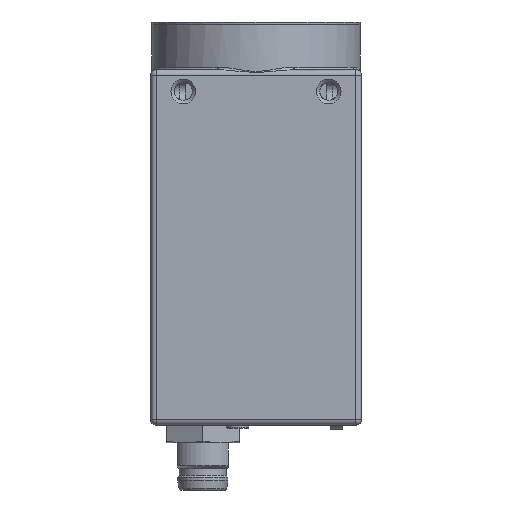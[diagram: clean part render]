
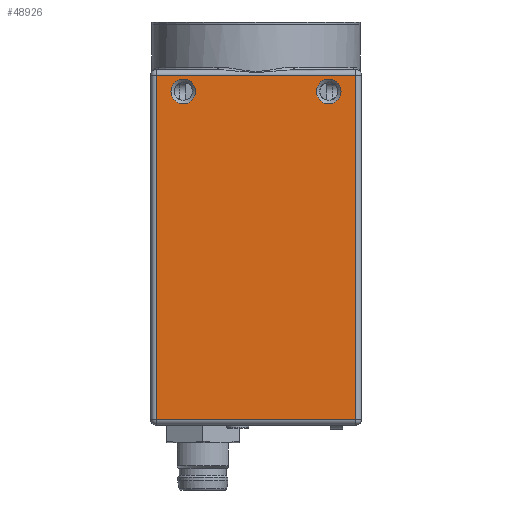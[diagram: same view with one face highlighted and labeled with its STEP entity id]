
A CAD part, left-side view. The second image highlights one B-rep face of the part: STEP entity #48926.
In plain terms, the highlighted planar face has unit normal (-1, 0, 0).
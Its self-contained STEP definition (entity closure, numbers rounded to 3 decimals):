
#2116=CIRCLE('',#52082,1.7);
#2117=CIRCLE('',#52084,1.7);
#4872=LINE('',#71915,#7727);
#4885=LINE('',#71961,#7740);
#4911=LINE('',#72092,#7766);
#4946=LINE('',#72206,#7801);
#7727=VECTOR('',#60776,1000.);
#7740=VECTOR('',#60831,1000.);
#7766=VECTOR('',#60935,1000.);
#7801=VECTOR('',#61034,1000.);
#15692=ORIENTED_EDGE('',*,*,#21370,.T.);
#15693=ORIENTED_EDGE('',*,*,#21369,.T.);
#15694=ORIENTED_EDGE('',*,*,#21485,.T.);
#15695=ORIENTED_EDGE('',*,*,#21389,.T.);
#15696=ORIENTED_EDGE('',*,*,#21368,.T.);
#15697=ORIENTED_EDGE('',*,*,#21435,.T.);
#21368=EDGE_CURVE('',#24939,#24965,#4872,.T.);
#21369=EDGE_CURVE('',#25003,#25003,#2116,.T.);
#21370=EDGE_CURVE('',#25004,#25004,#2117,.T.);
#21389=EDGE_CURVE('',#25015,#24939,#4885,.F.);
#21435=EDGE_CURVE('',#24965,#25046,#4911,.T.);
#21485=EDGE_CURVE('',#25046,#25015,#4946,.T.);
#24939=VERTEX_POINT('',#71633);
#24965=VERTEX_POINT('',#71800);
#25003=VERTEX_POINT('',#71918);
#25004=VERTEX_POINT('',#71921);
#25015=VERTEX_POINT('',#71962);
#25046=VERTEX_POINT('',#72091);
#28244=EDGE_LOOP('',(#15692));
#28245=EDGE_LOOP('',(#15693));
#28246=EDGE_LOOP('',(#15694,#15695,#15696,#15697));
#31010=FACE_BOUND('',#28244,.T.);
#31011=FACE_BOUND('',#28245,.T.);
#31012=FACE_BOUND('',#28246,.T.);
#32553=PLANE('',#52172);
#48926=ADVANCED_FACE('',(#31010,#31011,#31012),#32553,.T.);
#52082=AXIS2_PLACEMENT_3D('',#71917,#60779,#60780);
#52084=AXIS2_PLACEMENT_3D('',#71920,#60783,#60784);
#52172=AXIS2_PLACEMENT_3D('',#72205,#61032,#61033);
#60776=DIRECTION('',(0.,1.,0.));
#60779=DIRECTION('',(1.,0.,0.));
#60780=DIRECTION('',(0.,1.,0.));
#60783=DIRECTION('',(1.,0.,0.));
#60784=DIRECTION('',(0.,1.,0.));
#60831=DIRECTION('',(0.,0.,-1.));
#60935=DIRECTION('',(0.,0.,-1.));
#61032=DIRECTION('',(-1.,0.,0.));
#61033=DIRECTION('',(0.,0.,1.));
#61034=DIRECTION('',(0.,-1.,0.));
#71633=CARTESIAN_POINT('',(-14.5,-13.7,11.4));
#71800=CARTESIAN_POINT('',(-14.5,13.7,11.4));
#71915=CARTESIAN_POINT('',(-14.5,14.5,11.4));
#71917=CARTESIAN_POINT('',(-14.5,10.,9.2));
#71918=CARTESIAN_POINT('',(-14.5,11.7,9.2));
#71920=CARTESIAN_POINT('',(-14.5,-10.,9.2));
#71921=CARTESIAN_POINT('',(-14.5,-8.3,9.2));
#71961=CARTESIAN_POINT('',(-14.5,-13.7,12.2));
#71962=CARTESIAN_POINT('',(-14.5,-13.7,-35.9));
#72091=CARTESIAN_POINT('',(-14.5,13.7,-35.9));
#72092=CARTESIAN_POINT('',(-14.5,13.7,12.2));
#72205=CARTESIAN_POINT('',(-14.5,-14.5,12.2));
#72206=CARTESIAN_POINT('',(-14.5,-14.5,-35.9));
